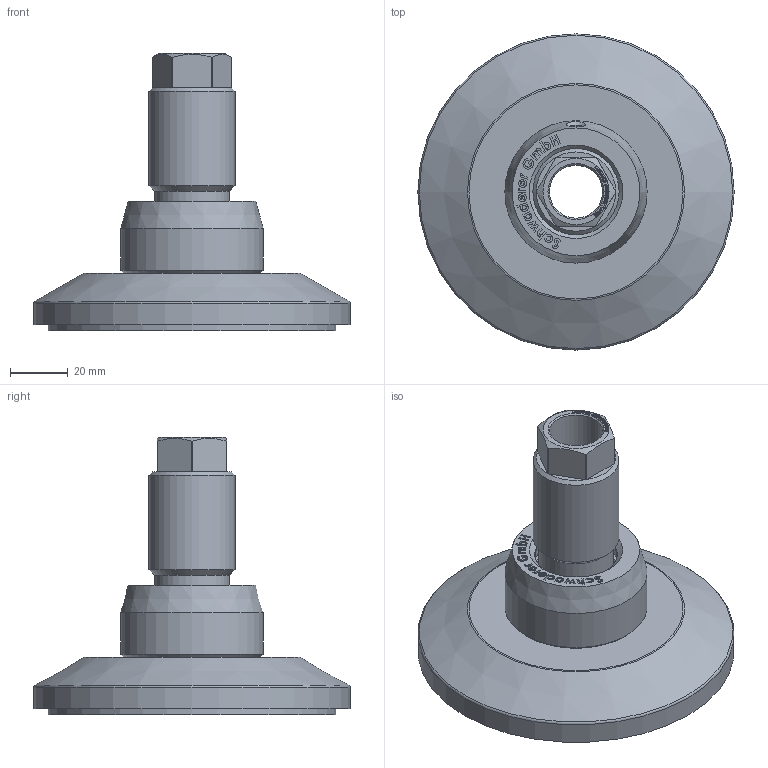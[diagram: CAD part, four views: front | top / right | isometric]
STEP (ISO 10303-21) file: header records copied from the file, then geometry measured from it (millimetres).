
FILE_DESCRIPTION(/* description */ ('JCM 100C - M30 - S6'),/* implementation_level */ '2;1');
FILE_NAME(/* name */ 'P:\CAD ab 2015\STP - Internetseite\JCMHD\JCMHD 100C - S6 - HSD70.stp',/* time_stamp */ '2021-10-01T09:19:04+02:00',/* author */ ('torsten'),/* organization */ ('Schwaderer GmbH Robert-Bosch-Str. 10 71563 Affalterbach'),/* preprocessor_version */ 'ST-DEVELOPER v18.1',/* originating_system */ 'Autodesk Inventor LT',/* authorisation */ '');
FILE_SCHEMA (('CONFIG_CONTROL_DESIGN'));
Length unit declared in the file: millimetre
Products named in the file (1): JCMHD 100C - S6 - HSD110
Bounding box: 110 x 110 x 96.4 mm (x, y, z)
Volume: 207031.7 mm3; surface area: 62076.1 mm2
Topology: 4 solids, 4 shells, 479 faces, 1302 edges, 871 vertices
Faces by surface type: plane 243, bspline 192, cylinder 23, cone 17, torus 3, sphere 1
Full cylindrical faces by diameter (mm): 5 x1, 18.5 x2, 25 x1, 26 x1, 26.5 x1, 27.5 x1, 28.5 x2, 30 x2, 31 x1, 49.5 x1, 100 x2, 110 x1
Entity records: 16618 total; most frequent: CARTESIAN_POINT 5625, ORIENTED_EDGE 2604, DIRECTION 1597, EDGE_CURVE 1302, VERTEX_POINT 871, LINE 781, VECTOR 781, EDGE_LOOP 529
